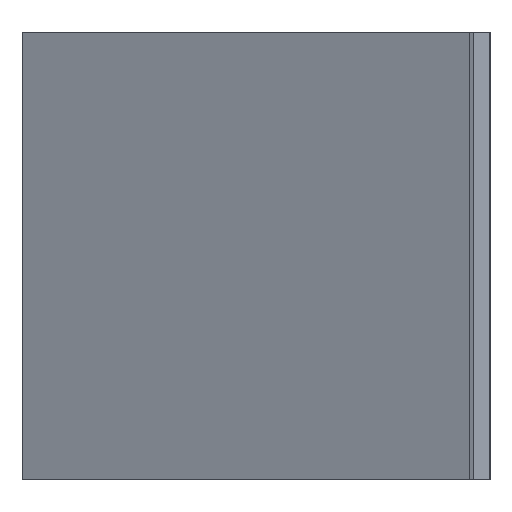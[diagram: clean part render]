
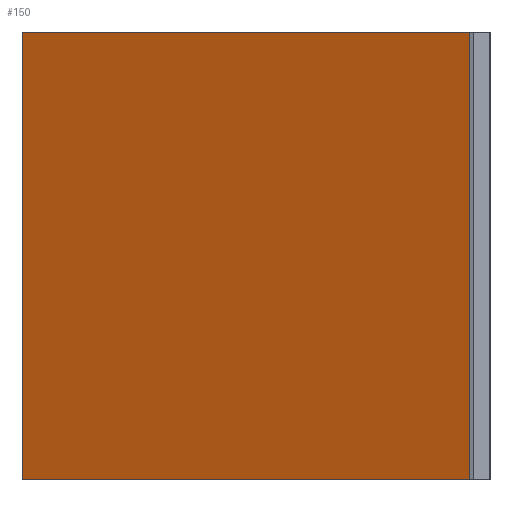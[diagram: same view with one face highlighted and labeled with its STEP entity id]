
A CAD part, left-side view. The second image highlights one B-rep face of the part: STEP entity #150.
In plain terms, the highlighted planar face has unit normal (0.91, -0.414, 0).
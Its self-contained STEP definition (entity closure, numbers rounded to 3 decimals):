
#98=CARTESIAN_POINT('Vertex',(20.,0.,0.)) ;
#101=CARTESIAN_POINT('Line Origine',(20.,0.,55.)) ;
#105=CARTESIAN_POINT('Vertex',(20.,0.,110.)) ;
#120=CARTESIAN_POINT('Axis2P3D Location',(20.,0.,0.)) ;
#125=CARTESIAN_POINT('Line Origine',(45.,55.,0.)) ;
#129=CARTESIAN_POINT('Vertex',(70.,110.,0.)) ;
#132=CARTESIAN_POINT('Line Origine',(70.,110.,55.)) ;
#136=CARTESIAN_POINT('Vertex',(70.,110.,110.)) ;
#139=CARTESIAN_POINT('Line Origine',(45.,55.,110.)) ;
#102=DIRECTION('Vector Direction',(0.,0.,1.)) ;
#121=DIRECTION('Axis2P3D Direction',(0.91,-0.414,0.)) ;
#122=DIRECTION('Axis2P3D XDirection',(0.414,0.91,0.)) ;
#126=DIRECTION('Vector Direction',(0.414,0.91,0.)) ;
#133=DIRECTION('Vector Direction',(0.,0.,1.)) ;
#140=DIRECTION('Vector Direction',(0.414,0.91,0.)) ;
#123=AXIS2_PLACEMENT_3D('Plane Axis2P3D',#120,#121,#122) ;
#145=ORIENTED_EDGE('',*,*,#107,.F.) ;
#146=ORIENTED_EDGE('',*,*,#131,.T.) ;
#147=ORIENTED_EDGE('',*,*,#138,.T.) ;
#148=ORIENTED_EDGE('',*,*,#143,.F.) ;
#103=VECTOR('Line Direction',#102,1.) ;
#127=VECTOR('Line Direction',#126,1.) ;
#134=VECTOR('Line Direction',#133,1.) ;
#141=VECTOR('Line Direction',#140,1.) ;
#150=ADVANCED_FACE('Extrude.1',(#149),#124,.T.) ;
#107=EDGE_CURVE('',#99,#106,#104,.T.) ;
#131=EDGE_CURVE('',#99,#130,#128,.T.) ;
#138=EDGE_CURVE('',#130,#137,#135,.T.) ;
#143=EDGE_CURVE('',#106,#137,#142,.T.) ;
#144=EDGE_LOOP('',(#145,#146,#147,#148)) ;
#149=FACE_OUTER_BOUND('',#144,.T.) ;
#104=LINE('Line',#101,#103) ;
#128=LINE('Line',#125,#127) ;
#135=LINE('Line',#132,#134) ;
#142=LINE('Line',#139,#141) ;
#124=PLANE('',#123) ;
#99=VERTEX_POINT('',#98) ;
#106=VERTEX_POINT('',#105) ;
#130=VERTEX_POINT('',#129) ;
#137=VERTEX_POINT('',#136) ;
